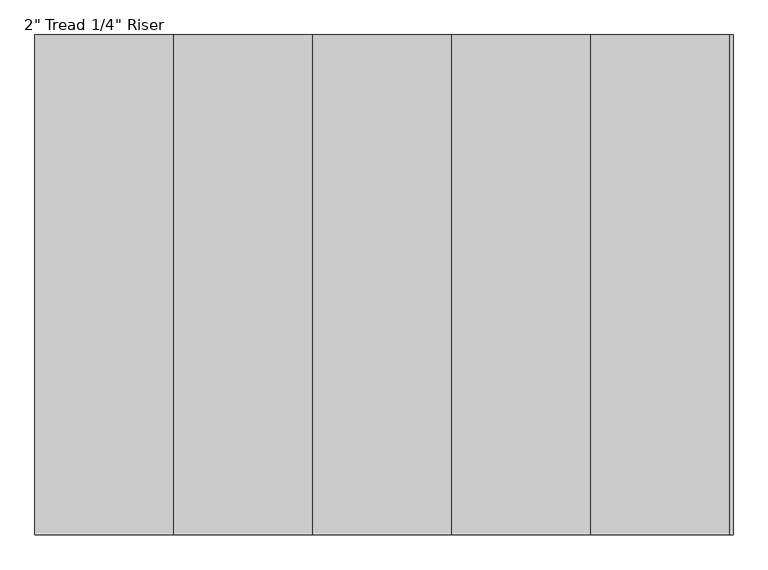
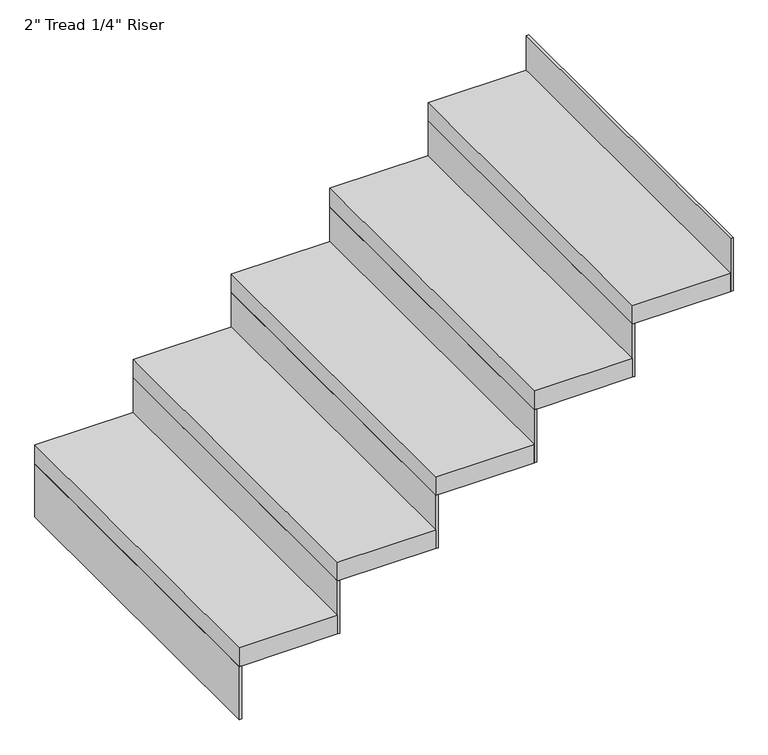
"""IFC4 building model written with IfcOpenShell, lengths in millimetres: stair flight geometry."""

from ifc_helpers import new_model, si_unit, frame, origin, place, context, project, spatial, polyline, outline, extrude, source, transform, mapped, element, save


def stair_flight_2e129cbe(model_context):
    return source(origin(), model_context, "Body", "SweptSolid", [
        extrude(outline(polyline([(89352.2645262, -18868.6990002), (89345.9145262, -18868.6990002), (89345.9145262, -17954.2990002), (89352.2645262, -17954.2990002), (89352.2645262, -18868.6990002)])), frame((0.0, 0.0, 2126.3428571), z_axis=(0.0, 0.0, 1.0), x_axis=(1.0, 0.0, 0.0)), (0.0, 0.0, 1.0), 145.1428571),
        extrude(outline(polyline([(89599.9145262, -17954.2990002), (89599.9145262, -18868.6990002), (89345.9145262, -18868.6990002), (89345.9145262, -17954.2990002), (89599.9145262, -17954.2990002)])), frame((0.0, 0.0, 2271.4857143), z_axis=(0.0, 0.0, 1.0), x_axis=(1.0, 0.0, 0.0)), (0.0, 0.0, 1.0), 50.8),
        extrude(outline(polyline([(89606.2645262, -18868.6990002), (89599.9145262, -18868.6990002), (89599.9145262, -17954.2990002), (89606.2645262, -17954.2990002), (89606.2645262, -18868.6990002)])), frame((0.0, 0.0, 2271.4857143), z_axis=(0.0, 0.0, 1.0), x_axis=(1.0, 0.0, 0.0)), (0.0, 0.0, 1.0), 145.1428571),
        extrude(outline(polyline([(89853.9145262, -17954.2990002), (89853.9145262, -18868.6990002), (89599.9145262, -18868.6990002), (89599.9145262, -17954.2990002), (89853.9145262, -17954.2990002)])), frame((0.0, 0.0, 2416.6285714), z_axis=(0.0, 0.0, 1.0), x_axis=(1.0, 0.0, 0.0)), (0.0, 0.0, 1.0), 50.8),
        extrude(outline(polyline([(89860.2645262, -18868.6990002), (89853.9145262, -18868.6990002), (89853.9145262, -17954.2990002), (89860.2645262, -17954.2990002), (89860.2645262, -18868.6990002)])), frame((0.0, 0.0, 2416.6285714), z_axis=(0.0, 0.0, 1.0), x_axis=(1.0, 0.0, 0.0)), (0.0, 0.0, 1.0), 145.1428571),
        extrude(outline(polyline([(90107.9145262, -17954.2990002), (90107.9145262, -18868.6990002), (89853.9145262, -18868.6990002), (89853.9145262, -17954.2990002), (90107.9145262, -17954.2990002)])), frame((0.0, 0.0, 2561.7714286), z_axis=(0.0, 0.0, 1.0), x_axis=(1.0, 0.0, 0.0)), (0.0, 0.0, 1.0), 50.8),
        extrude(outline(polyline([(90114.2645262, -18868.6990002), (90107.9145262, -18868.6990002), (90107.9145262, -17954.2990002), (90114.2645262, -17954.2990002), (90114.2645262, -18868.6990002)])), frame((0.0, 0.0, 2561.7714286), z_axis=(0.0, 0.0, 1.0), x_axis=(1.0, 0.0, 0.0)), (0.0, 0.0, 1.0), 145.1428571),
        extrude(outline(polyline([(90361.9145262, -17954.2990002), (90361.9145262, -18868.6990002), (90107.9145262, -18868.6990002), (90107.9145262, -17954.2990002), (90361.9145262, -17954.2990002)])), frame((0.0, 0.0, 2706.9142857), z_axis=(0.0, 0.0, 1.0), x_axis=(1.0, 0.0, 0.0)), (0.0, 0.0, 1.0), 50.8),
        extrude(outline(polyline([(90368.2645262, -18868.6990002), (90361.9145262, -18868.6990002), (90361.9145262, -17954.2990002), (90368.2645262, -17954.2990002), (90368.2645262, -18868.6990002)])), frame((0.0, 0.0, 2706.9142857), z_axis=(0.0, 0.0, 1.0), x_axis=(1.0, 0.0, 0.0)), (0.0, 0.0, 1.0), 145.1428571),
        extrude(outline(polyline([(90622.2645262, -18868.6990002), (90615.9145262, -18868.6990002), (90615.9145262, -17954.2990002), (90622.2645262, -17954.2990002), (90622.2645262, -18868.6990002)])), frame((0.0, 0.0, 2852.0571429), z_axis=(0.0, 0.0, 1.0), x_axis=(1.0, 0.0, 0.0)), (0.0, 0.0, 1.0), 145.1428571),
        extrude(outline(polyline([(90615.9145262, -17954.2990002), (90615.9145262, -18868.6990002), (90361.9145262, -18868.6990002), (90361.9145262, -17954.2990002), (90615.9145262, -17954.2990002)])), frame((0.0, 0.0, 2852.0571429), z_axis=(0.0, 0.0, 1.0), x_axis=(1.0, 0.0, 0.0)), (0.0, 0.0, 1.0), 50.8),
    ])


if __name__ == "__main__":
    model = new_model("IFC4")
    model_context = context("Model", 3, world=origin())
    ifc_project = project(units=[si_unit("LENGTHUNIT", "METRE", prefix="MILLI")], contexts=[model_context])
    site = spatial("IfcSite", under=ifc_project)
    building = spatial("IfcBuilding", under=site)
    placement = place(None, origin())
    stair_flight_shape = stair_flight_2e129cbe(model_context)
    element("IfcStairFlight", 1, ObjectType="2\" Tread 1/4\" Riser", at=placement, inside=building, context=model_context, shape_type="MappedRepresentation", body=[
        mapped(stair_flight_shape, transform((0.0, 0.0, 0.0), x_axis=(1.0, 0.0, 0.0), y_axis=(0.0, 1.0, 0.0), z_axis=(0.0, 0.0, 1.0))),
    ])
    save(model, "model.ifc")
